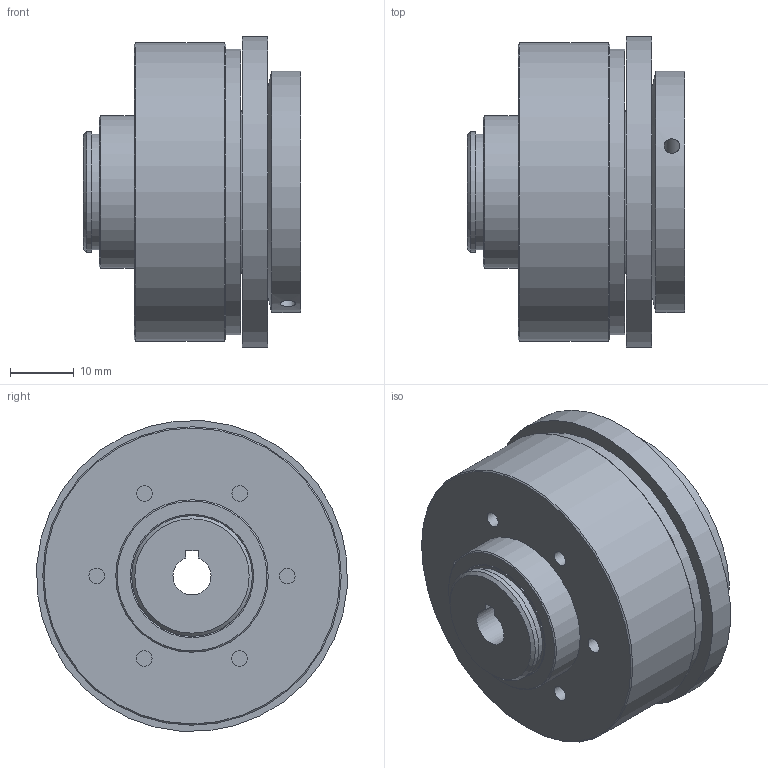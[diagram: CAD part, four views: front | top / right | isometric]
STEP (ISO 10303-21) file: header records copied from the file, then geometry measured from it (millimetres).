
FILE_DESCRIPTION( ( 'Unknown' ), '1' );
FILE_NAME( 'C:/Users/TWalzel/Documents/CAD-Daten/KBK-CP/10/KBK CP-10.stp', 'Unknown', ( 'Unknown' ), ( 'Unknown' ), 'PSStep 16.0.42', 'Unknown', ' ' );
FILE_SCHEMA( ( 'AUTOMOTIVE_DESIGN { 1 0 10303 214 1 1 1 1 }' ) );
Length unit declared in the file: millimetre
Products named in the file (7): Druckring 10_0; Stellring 10_0; Assem1; Flansch-Gleitlager CK-7; Grundkörper CP-10_1
Assembly tree (6 placements, depth 3):
  Assem1
    Flansch-Gleitlager CK-7
    Grundkörper CP-10_1
    Druckring 10_0
      Druckring 10_0
    Stellring 10_0
      Stellring 10_0
Bounding box: 34.2 x 48.87 x 48.87 mm (x, y, z)
Volume: 42692.3 mm3; surface area: 19165.7 mm2
Topology: 4 solids, 4 shells, 66 faces, 128 edges, 79 vertices
Faces by surface type: cylinder 29, plane 25, cone 10, torus 2
Full cylindrical faces by diameter (mm): 2.459 x14, 18.2 x1, 19 x3, 24 x3, 25 x1, 29.993 x1, 38 x1, 40 x1, 45 x1, 47 x1, 49 x1
Entity records: 2213 total; most frequent: CARTESIAN_POINT 357, DIRECTION 285, ORIENTED_EDGE 158, AXIS2_PLACEMENT_3D 135, EDGE_LOOP 128, FACE_OUTER_BOUND 96, EDGE_CURVE 79, VERTEX_POINT 71
